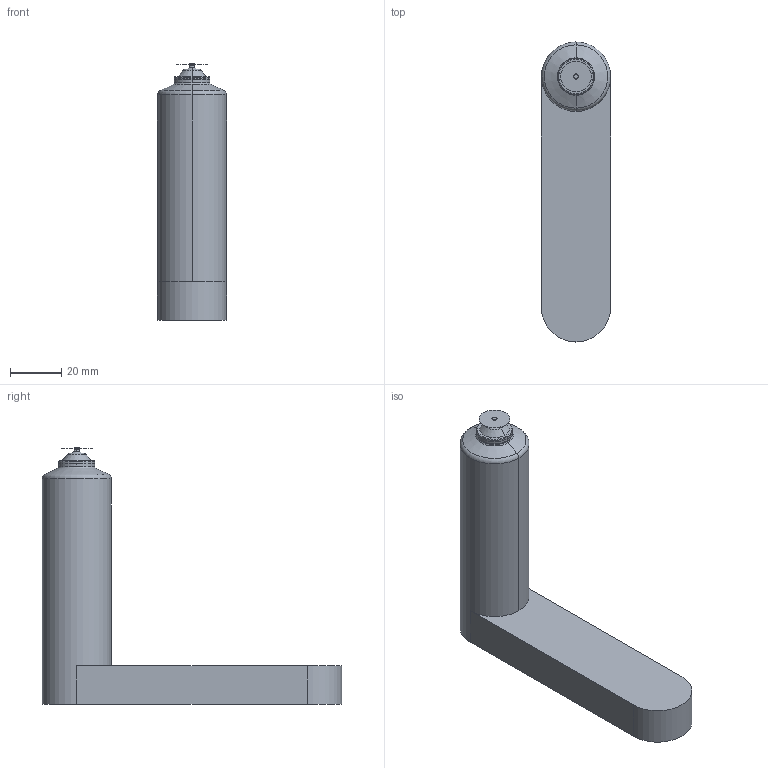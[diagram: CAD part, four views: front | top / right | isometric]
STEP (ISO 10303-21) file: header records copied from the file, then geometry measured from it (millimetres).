
FILE_DESCRIPTION (( 'STEP AP214' ), '1' );
FILE_NAME ('09E-03-100-VSW.STEP', '2023-01-03T12:39:03', ( '' ), ( '' ), 'SwSTEP 2.0', 'SolidWorks 2018', '' );
FILE_SCHEMA (( 'AUTOMOTIVE_DESIGN' ));
Length unit declared in the file: millimetre
Products named in the file (3): nozzle_09E-03-100-VSW; 09E-03-100-VSW; cutout_09E-03-100-VSW
Assembly tree (2 placements, depth 2):
  09E-03-100-VSW
    nozzle_09E-03-100-VSW
    cutout_09E-03-100-VSW
Bounding box: 27 x 117 x 100.15 mm (x, y, z)
Volume: 89190.7 mm3; surface area: 41851.3 mm2
Topology: 1 solids, 4 shells, 271 faces, 699 edges, 438 vertices
Faces by surface type: cylinder 120, plane 74, cone 47, torus 26, bspline 4
Entity records: 12297 total; most frequent: CARTESIAN_POINT 5443, DIRECTION 1472, ORIENTED_EDGE 1396, EDGE_CURVE 699, AXIS2_PLACEMENT_3D 588, VERTEX_POINT 438, CIRCLE 315, LINE 296
